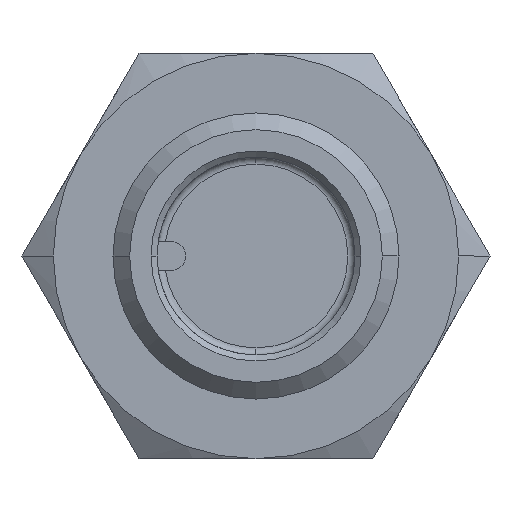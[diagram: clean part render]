
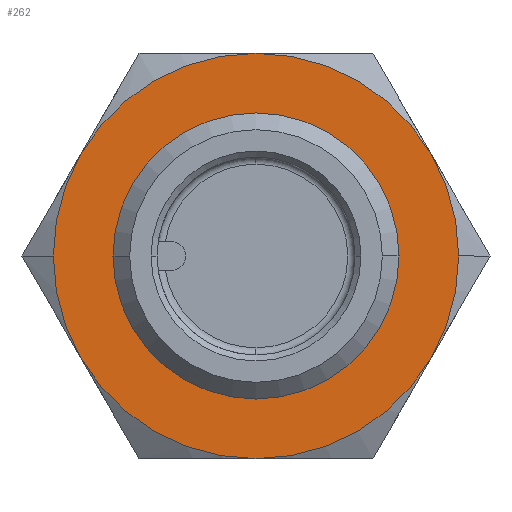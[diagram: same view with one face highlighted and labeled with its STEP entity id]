
A CAD part, left-side view. The second image highlights one B-rep face of the part: STEP entity #262.
In plain terms, the highlighted planar face has unit normal (-1, 0, 0).
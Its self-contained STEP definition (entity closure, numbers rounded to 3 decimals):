
#262 = ADVANCED_FACE( '', ( #486, #487 ), #488, .T. );
#486 = FACE_BOUND( '', #743, .T. );
#487 = FACE_OUTER_BOUND( '', #744, .T. );
#488 = PLANE( '', #745 );
#743 = EDGE_LOOP( '', ( #1483, #1484 ) );
#744 = EDGE_LOOP( '', ( #1485, #1486, #1487, #1488, #1489, #1490, #1491, #1492 ) );
#745 = AXIS2_PLACEMENT_3D( '', #1493, #1494, #1495 );
#1483 = ORIENTED_EDGE( '', *, *, #1881, .T. );
#1484 = ORIENTED_EDGE( '', *, *, #1869, .T. );
#1485 = ORIENTED_EDGE( '', *, *, #1919, .T. );
#1486 = ORIENTED_EDGE( '', *, *, #1858, .T. );
#1487 = ORIENTED_EDGE( '', *, *, #1914, .T. );
#1488 = ORIENTED_EDGE( '', *, *, #1915, .T. );
#1489 = ORIENTED_EDGE( '', *, *, #1860, .T. );
#1490 = ORIENTED_EDGE( '', *, *, #1916, .T. );
#1491 = ORIENTED_EDGE( '', *, *, #1917, .T. );
#1492 = ORIENTED_EDGE( '', *, *, #1918, .T. );
#1493 = CARTESIAN_POINT( '', ( 30., 4.25, 0. ) );
#1494 = DIRECTION( '', ( -1., 0., 0. ) );
#1495 = DIRECTION( '', ( 0., 1., 0. ) );
#1858 = EDGE_CURVE( '', #2218, #2220, #2222, .T. );
#1860 = EDGE_CURVE( '', #2226, #2223, #2227, .T. );
#1869 = EDGE_CURVE( '', #2244, #2241, #2245, .T. );
#1881 = EDGE_CURVE( '', #2241, #2244, #2262, .T. );
#1914 = EDGE_CURVE( '', #2220, #2268, #2311, .T. );
#1915 = EDGE_CURVE( '', #2268, #2226, #2312, .T. );
#1916 = EDGE_CURVE( '', #2223, #2299, #2313, .T. );
#1917 = EDGE_CURVE( '', #2299, #2291, #2314, .T. );
#1918 = EDGE_CURVE( '', #2291, #2278, #2315, .T. );
#1919 = EDGE_CURVE( '', #2278, #2218, #2316, .T. );
#2218 = VERTEX_POINT( '', #3047 );
#2220 = VERTEX_POINT( '', #3050 );
#2222 = CIRCLE( '', #3061, 8.5 );
#2223 = VERTEX_POINT( '', #3062 );
#2226 = VERTEX_POINT( '', #3066 );
#2227 = CIRCLE( '', #3067, 8.5 );
#2241 = VERTEX_POINT( '', #3110 );
#2244 = VERTEX_POINT( '', #3114 );
#2245 = CIRCLE( '', #3115, 6. );
#2262 = CIRCLE( '', #3137, 6. );
#2268 = VERTEX_POINT( '', #3153 );
#2278 = VERTEX_POINT( '', #3201 );
#2291 = VERTEX_POINT( '', #3278 );
#2299 = VERTEX_POINT( '', #3323 );
#2311 = CIRCLE( '', #3372, 8.5 );
#2312 = CIRCLE( '', #3373, 8.5 );
#2313 = CIRCLE( '', #3374, 8.5 );
#2314 = CIRCLE( '', #3375, 8.5 );
#2315 = CIRCLE( '', #3376, 8.5 );
#2316 = CIRCLE( '', #3377, 8.5 );
#3047 = CARTESIAN_POINT( '', ( 30., 8.5, 0. ) );
#3050 = CARTESIAN_POINT( '', ( 30., 7.361, -4.25 ) );
#3061 = AXIS2_PLACEMENT_3D( '', #3959, #3960, #3961 );
#3062 = CARTESIAN_POINT( '', ( 30., -8.5, 0. ) );
#3066 = CARTESIAN_POINT( '', ( 30., -7.361, -4.25 ) );
#3067 = AXIS2_PLACEMENT_3D( '', #3963, #3964, #3965 );
#3110 = CARTESIAN_POINT( '', ( 30., 6., 0. ) );
#3114 = CARTESIAN_POINT( '', ( 30., -6., 0. ) );
#3115 = AXIS2_PLACEMENT_3D( '', #3975, #3976, #3977 );
#3137 = AXIS2_PLACEMENT_3D( '', #4001, #4002, #4003 );
#3153 = CARTESIAN_POINT( '', ( 30., 0., -8.5 ) );
#3201 = CARTESIAN_POINT( '', ( 30., 7.361, 4.25 ) );
#3278 = CARTESIAN_POINT( '', ( 30., 0., 8.5 ) );
#3323 = CARTESIAN_POINT( '', ( 30., -7.361, 4.25 ) );
#3372 = AXIS2_PLACEMENT_3D( '', #4028, #4029, #4030 );
#3373 = AXIS2_PLACEMENT_3D( '', #4031, #4032, #4033 );
#3374 = AXIS2_PLACEMENT_3D( '', #4034, #4035, #4036 );
#3375 = AXIS2_PLACEMENT_3D( '', #4037, #4038, #4039 );
#3376 = AXIS2_PLACEMENT_3D( '', #4040, #4041, #4042 );
#3377 = AXIS2_PLACEMENT_3D( '', #4043, #4044, #4045 );
#3959 = CARTESIAN_POINT( '', ( 30., 0., 0. ) );
#3960 = DIRECTION( '', ( -1., 0., 0. ) );
#3961 = DIRECTION( '', ( 0., 1., 0. ) );
#3963 = CARTESIAN_POINT( '', ( 30., 0., 0. ) );
#3964 = DIRECTION( '', ( -1., 0., 0. ) );
#3965 = DIRECTION( '', ( 0., 1., 0. ) );
#3975 = CARTESIAN_POINT( '', ( 30., 0., 0. ) );
#3976 = DIRECTION( '', ( 1., 0., 0. ) );
#3977 = DIRECTION( '', ( 0., 1., 0. ) );
#4001 = CARTESIAN_POINT( '', ( 30., 0., 0. ) );
#4002 = DIRECTION( '', ( 1., 0., 0. ) );
#4003 = DIRECTION( '', ( 0., 1., 0. ) );
#4028 = CARTESIAN_POINT( '', ( 30., 0., 0. ) );
#4029 = DIRECTION( '', ( -1., 0., 0. ) );
#4030 = DIRECTION( '', ( 0., 1., 0. ) );
#4031 = CARTESIAN_POINT( '', ( 30., 0., 0. ) );
#4032 = DIRECTION( '', ( -1., 0., 0. ) );
#4033 = DIRECTION( '', ( 0., 1., 0. ) );
#4034 = CARTESIAN_POINT( '', ( 30., 0., 0. ) );
#4035 = DIRECTION( '', ( -1., 0., 0. ) );
#4036 = DIRECTION( '', ( 0., 1., 0. ) );
#4037 = CARTESIAN_POINT( '', ( 30., 0., 0. ) );
#4038 = DIRECTION( '', ( -1., 0., 0. ) );
#4039 = DIRECTION( '', ( 0., 1., 0. ) );
#4040 = CARTESIAN_POINT( '', ( 30., 0., 0. ) );
#4041 = DIRECTION( '', ( -1., 0., 0. ) );
#4042 = DIRECTION( '', ( 0., 1., 0. ) );
#4043 = CARTESIAN_POINT( '', ( 30., 0., 0. ) );
#4044 = DIRECTION( '', ( -1., 0., 0. ) );
#4045 = DIRECTION( '', ( 0., 1., 0. ) );
